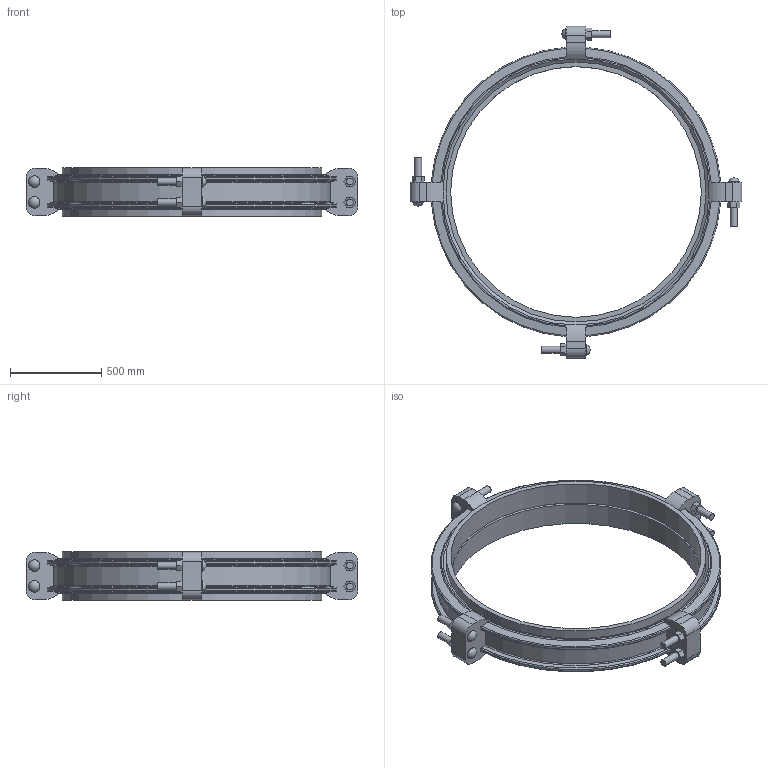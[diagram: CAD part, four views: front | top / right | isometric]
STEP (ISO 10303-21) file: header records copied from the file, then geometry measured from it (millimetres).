
FILE_DESCRIPTION(/* description */ ('VIC COUPLING FLEX STYLE W77 AGS VIC-RING ','CAx-IF Rec.Pracs.---Representation and Presentation of Product Manufacturing Information (PMI)---4.0---2014-10-13'),/* implementation_level */ '2;1');
FILE_NAME(/* name */ 'C:\Users\Vjadhav\AppData\Roaming\Autodesk\ApplicationPlugins\Victaulic.Temp\A52\Victaulic_Vic-Ring_Coupling Flexible_Style W77 (AGR)_56 (1400).stp',/* time_stamp */ '2021-12-20T11:06:45+06:00',/* author */ ('Vjadhav'),/* organization */ ('Victaulic'),/* preprocessor_version */ 'ST-DEVELOPER v17.2',/* originating_system */ 'Autodesk Inventor 2019',/* authorisation */ '');
FILE_SCHEMA (('AP242_MANAGED_MODEL_BASED_3D_ENGINEERING_MIM_LF { 1 0 10303 442 1 1 4 }'));
Length unit declared in the file: inch
Products named in the file (3): W77 VR-56.0; W77-VR-56.0; W77 VR-56.0_1
Assembly tree (3 placements, depth 2):
  W77 VR-56.0
    W77-VR-56.0
    W77 VR-56.0_1  x2
Bounding box: 1816.1 x 1816.1 x 265.94 mm (x, y, z)
Volume: 93879152.6 mm3; surface area: 6210007.7 mm2
Topology: 3 solids, 11 shells, 279 faces, 745 edges, 512 vertices
Faces by surface type: plane 138, cylinder 83, torus 32, cone 18, sphere 8
Full cylindrical faces by diameter (mm): 38.1 x16, 63.5 x8, 1371.6 x2, 1403.35 x1, 1422.4 x4
Entity records: 10061 total; most frequent: CARTESIAN_POINT 2672, ORIENTED_EDGE 1470, DIRECTION 1457, EDGE_CURVE 735, AXIS2_PLACEMENT_3D 537, VERTEX_POINT 504, LINE 383, VECTOR 383
